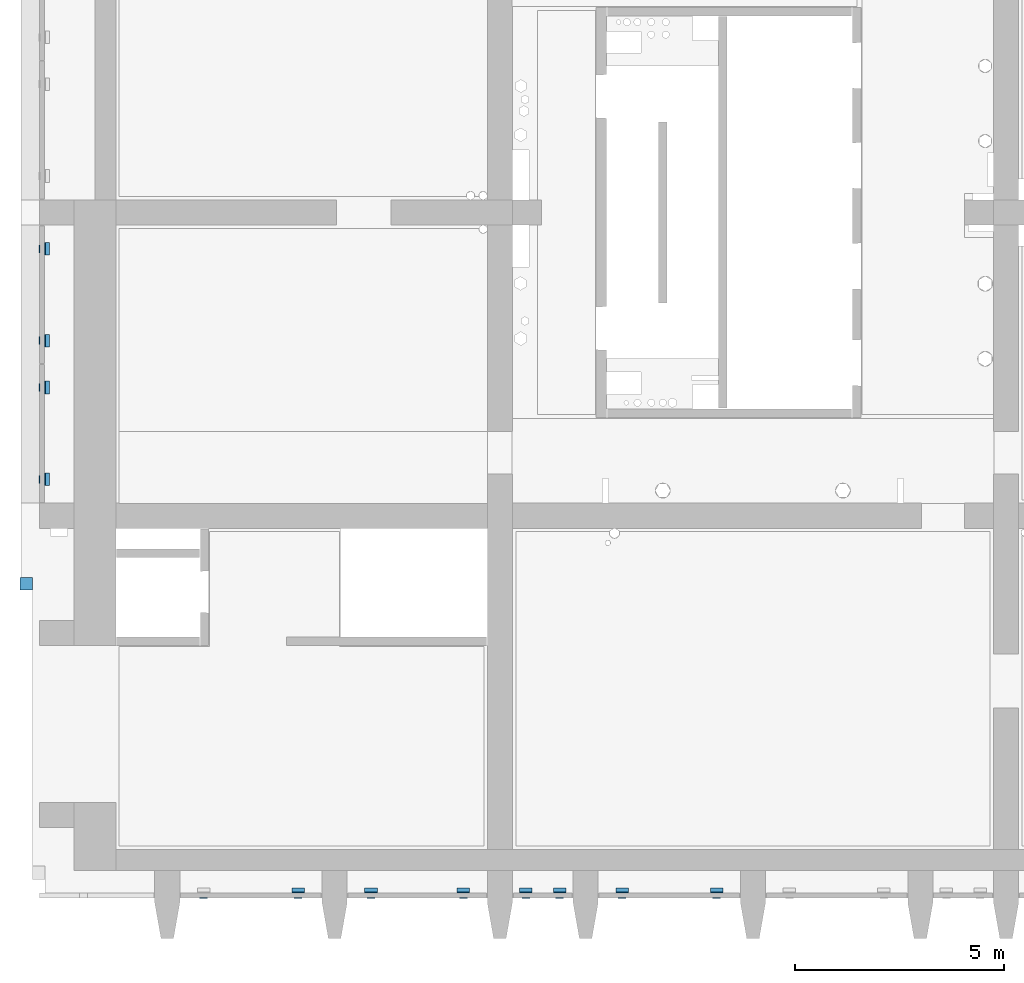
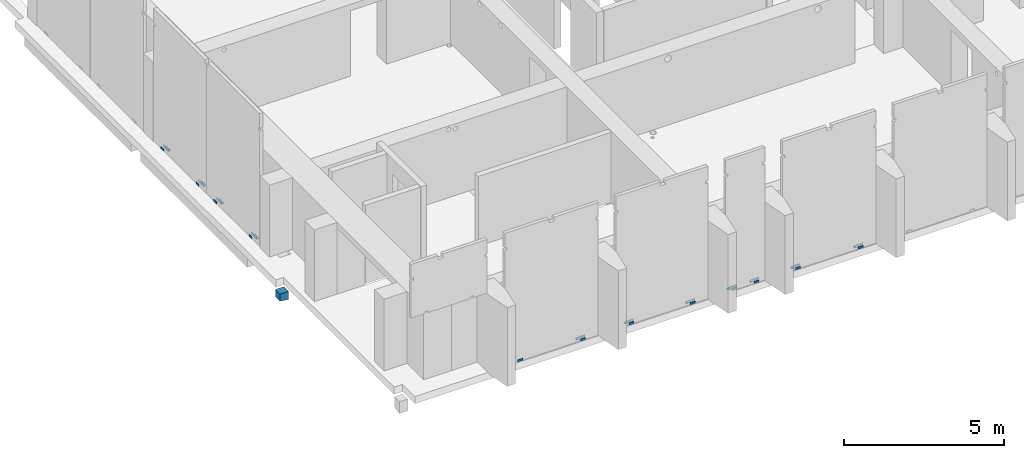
# One storey, part 15 of 31: 24 beams.
"""IFC2X3 building model written with IfcOpenShell, lengths in millimetres."""

from ifc_helpers import new_model, entity, si_unit, converted_unit, derived_unit, direction, frame, frame_2d, origin, origin_2d_with_axis, place, context, subcontext, project, spatial, polyline, circle_curve, parameter, trimmed, segment, composite_curve, rectangle, outline, extrude, source, transform, mapped, material, type_object, type_shapes, element, save


model = new_model("IFC2X3")

# Units and contexts
model_context = context("Model", 3, precision=0.01, world=origin(), true_north=direction((6.12303176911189e-17, 1.0)))
body_context = subcontext(model_context, "Body", "Model", "MODEL_VIEW")
ifc_project = project(units=[si_unit("LENGTHUNIT", "METRE", prefix="MILLI"), si_unit("AREAUNIT", "SQUARE_METRE"), si_unit("VOLUMEUNIT", "CUBIC_METRE"), converted_unit("PLANEANGLEUNIT", "DEGREE", entity("IfcRatioMeasure", 0.0174532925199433), si_unit("PLANEANGLEUNIT", "RADIAN"), dimensions=[0, 0, 0, 0, 0, 0, 0]), si_unit("MASSUNIT", "GRAM", prefix="KILO"), derived_unit("MASSDENSITYUNIT", [(si_unit("MASSUNIT", "GRAM", prefix="KILO"), 1), (si_unit("LENGTHUNIT", "METRE"), -3)]), si_unit("TIMEUNIT", "SECOND"), si_unit("FREQUENCYUNIT", "HERTZ"), si_unit("THERMODYNAMICTEMPERATUREUNIT", "DEGREE_CELSIUS"), derived_unit("THERMALTRANSMITTANCEUNIT", [(si_unit("MASSUNIT", "GRAM", prefix="KILO"), 1), (si_unit("THERMODYNAMICTEMPERATUREUNIT", "KELVIN"), -1), (si_unit("TIMEUNIT", "SECOND"), -3)]), derived_unit("VOLUMETRICFLOWRATEUNIT", [(si_unit("LENGTHUNIT", "METRE"), 3), (si_unit("TIMEUNIT", "SECOND"), -1)]), si_unit("ELECTRICCURRENTUNIT", "AMPERE"), si_unit("ELECTRICVOLTAGEUNIT", "VOLT"), si_unit("POWERUNIT", "WATT"), si_unit("FORCEUNIT", "NEWTON", prefix="KILO"), si_unit("ILLUMINANCEUNIT", "LUX"), si_unit("LUMINOUSFLUXUNIT", "LUMEN"), si_unit("LUMINOUSINTENSITYUNIT", "CANDELA"), derived_unit("USERDEFINED", [(si_unit("MASSUNIT", "GRAM", prefix="KILO"), -1), (si_unit("LENGTHUNIT", "METRE"), -2), (si_unit("TIMEUNIT", "SECOND"), 3), (si_unit("LUMINOUSFLUXUNIT", "LUMEN"), 1)]), derived_unit("LINEARVELOCITYUNIT", [(si_unit("LENGTHUNIT", "METRE"), 1), (si_unit("TIMEUNIT", "SECOND"), -1)]), si_unit("PRESSUREUNIT", "PASCAL"), derived_unit("USERDEFINED", [(si_unit("LENGTHUNIT", "METRE"), -2), (si_unit("MASSUNIT", "GRAM", prefix="KILO"), 1), (si_unit("TIMEUNIT", "SECOND"), -2)])], contexts=[model_context])

# Site, building, storey
site_placement = place(None, origin())
site = spatial("IfcSite", under=ifc_project, at=site_placement, Name="Default", CompositionType="ELEMENT")
building_placement = place(site_placement, origin())
building = spatial("IfcBuilding", under=site, at=building_placement, Name="niet gebruiken", CompositionType="ELEMENT")
storey_placement = place(building_placement, frame((0.0, 0.0, 12000.0)))
storey = spatial("IfcBuildingStorey", under=building, at=storey_placement, Name="03 derde verdieping", CompositionType="ELEMENT", Elevation=12000.0)

# Beams
ifc_material_1 = material(Name="NLRS_f2_beton prefab")
beam_type_1 = type_object("IfcBeamType", Name="NLRS_28.11_SF_WPB_oplegnok prefabbeton_gen:300x310 met afschuining 7,6gr", PredefinedType="BEAM")
beam_1_placement = place(storey_placement, frame((124380.0, 8771.0, -442.0), z_axis=(0.0, 0.0, 1.0), x_axis=(0.0, -1.0, 0.0)))
element("IfcBeam", 1, at=beam_1_placement, inside=storey, type_object=beam_type_1, material=ifc_material_1, Name="NLRS_28.11_SF_WPB_oplegnok prefabbeton_gen:300x310 met afschuining 7,6gr", ObjectType="NLRS_28.11_SF_WPB_oplegnok prefabbeton_gen:300x310 met afschuining 7,6gr", context=body_context, shape_type="SweptSolid", body=[
    extrude(outline(polyline([(-144.992863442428, -150.0), (124.978590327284, -150.0), (165.007136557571, 150.0), (-144.99286344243, 150.0), (-144.992863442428, -150.0)])), frame((0.0, 0.0, -144.99286344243), z_axis=(1.0, 0.0, 0.0), x_axis=(0.0, 0.0, -1.0)), (0.0, 0.0, 1.0), 300.0),
])
ifc_material_2 = material(Name="NLRS_h2_staal")
beam_type_2 = type_object("IfcBeamType", Name="NLRS_28.11_SF_WPB_stalen ligger hoekprofiel gelijkzijdig_gen:ligger gelijzijdig hoekprofiel LEQU_120x120x12_!", PredefinedType="BEAM")
beam_2_placement = place(storey_placement, frame((130730.0, 1254.0, 30.0)))
element("IfcBeam", 2, at=beam_2_placement, inside=storey, type_object=beam_type_2, material=ifc_material_2, Name="NLRS_28.11_SF_WPB_stalen ligger hoekprofiel gelijkzijdig_gen:ligger gelijzijdig hoekprofiel LEQU_120x120x12_!", ObjectType="NLRS_28.11_SF_WPB_stalen ligger hoekprofiel gelijkzijdig_gen:ligger gelijzijdig hoekprofiel LEQU_120x120x12_!", context=body_context, shape_type="SweptSolid", body=[
    extrude(outline(composite_curve([segment(polyline([(-75.5555555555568, -44.444444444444), (44.444444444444, -44.444444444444)]), True, "CONTINUOUS"), segment(polyline([(44.444444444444, -44.4444444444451), (44.4444444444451, 75.5555555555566)]), True, "CONTINUOUS"), segment(polyline([(44.4444444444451, 75.5555555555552), (40.4444444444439, 75.5555555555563)]), True, "CONTINUOUS"), segment(trimmed(circle_curve(frame_2d((40.444444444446, 69.5555555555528), x_axis=(0.0, 1.0)), 6.00000000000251), [parameter(0.0)], [parameter(89.9999999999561)], True, "PARAMETER"), True, "CONTINUOUS"), segment(polyline([(34.444444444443, 69.5555555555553), (34.4444444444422, -22.4444444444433)]), True, "CONTINUOUS"), segment(trimmed(circle_curve(frame_2d((22.4444444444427, -22.4444444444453), x_axis=(1.0, 0.0)), 11.9999999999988), [parameter(269.999999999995)], [parameter(0.0)], True, "PARAMETER"), False, "CONTINUOUS"), segment(polyline([(22.4444444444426, -34.4444444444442), (-69.5555555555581, -34.4444444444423)]), True, "CONTINUOUS"), segment(trimmed(circle_curve(frame_2d((-69.5555555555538, -40.4444444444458), x_axis=(0.0, 1.0)), 6.00000000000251), [parameter(0.0)], [parameter(89.9999999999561)], True, "PARAMETER"), True, "CONTINUOUS"), segment(polyline([(-75.5555555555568, -40.4444444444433), (-75.5555555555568, -44.444444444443)]), True, "CONTINUOUS")], self_intersect=False)), frame((0.0, 24.4444444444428, -75.5555555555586), z_axis=(1.0, 0.0, 0.0), x_axis=(0.0, 0.0, -1.0)), (0.0, 0.0, 1.0), 300.000000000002),
])
for number, where in (
    (3, (132470.0, 1254.0, 30.0)),
    (4, (134680.0, 1254.0, 30.0)),
    (5, (140730.0, 1254.0, 30.0)),
):
    element("IfcBeam", number, at=place(storey_placement, frame(where)), inside=storey, type_object=beam_type_2, material=ifc_material_2, Name="NLRS_28.11_SF_WPB_stalen ligger hoekprofiel gelijkzijdig_gen:ligger gelijzijdig hoekprofiel LEQU_120x120x12_!", ObjectType="NLRS_28.11_SF_WPB_stalen ligger hoekprofiel gelijkzijdig_gen:ligger gelijzijdig hoekprofiel LEQU_120x120x12_!", context=body_context, shape_type="SweptSolid", body=[
        extrude(outline(composite_curve([segment(polyline([(-75.5555555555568, -44.444444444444), (44.444444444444, -44.444444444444)]), True, "CONTINUOUS"), segment(polyline([(44.444444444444, -44.4444444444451), (44.4444444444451, 75.5555555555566)]), True, "CONTINUOUS"), segment(polyline([(44.4444444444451, 75.5555555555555), (40.4444444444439, 75.5555555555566)]), True, "CONTINUOUS"), segment(trimmed(circle_curve(frame_2d((40.444444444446, 69.5555555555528), x_axis=(0.0, 1.0)), 6.00000000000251), [parameter(0.0)], [parameter(89.9999999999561)], True, "PARAMETER"), True, "CONTINUOUS"), segment(polyline([(34.444444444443, 69.5555555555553), (34.4444444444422, -22.4444444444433)]), True, "CONTINUOUS"), segment(trimmed(circle_curve(frame_2d((22.4444444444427, -22.4444444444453), x_axis=(1.0, 0.0)), 11.9999999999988), [parameter(269.999999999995)], [parameter(0.0)], True, "PARAMETER"), False, "CONTINUOUS"), segment(polyline([(22.4444444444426, -34.4444444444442), (-69.5555555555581, -34.4444444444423)]), True, "CONTINUOUS"), segment(trimmed(circle_curve(frame_2d((-69.5555555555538, -40.4444444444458), x_axis=(0.0, 1.0)), 6.00000000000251), [parameter(0.0)], [parameter(89.9999999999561)], True, "PARAMETER"), True, "CONTINUOUS"), segment(polyline([(-75.5555555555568, -40.4444444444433), (-75.5555555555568, -44.444444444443)]), True, "CONTINUOUS")], self_intersect=False)), frame((0.0, 24.4444444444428, -75.5555555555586), z_axis=(1.0, 0.0, 0.0), x_axis=(0.0, 0.0, -1.0)), (0.0, 0.0, 1.0), 300.000000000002),
    ])
beam_3_placement = place(storey_placement, frame((138470.0, 1254.0, 30.0)))
element("IfcBeam", 6, at=beam_3_placement, inside=storey, type_object=beam_type_2, material=ifc_material_2, Name="NLRS_28.11_SF_WPB_stalen ligger hoekprofiel gelijkzijdig_gen:ligger gelijzijdig hoekprofiel LEQU_120x120x12_!", ObjectType="NLRS_28.11_SF_WPB_stalen ligger hoekprofiel gelijkzijdig_gen:ligger gelijzijdig hoekprofiel LEQU_120x120x12_!", context=body_context, shape_type="SweptSolid", body=[
    extrude(outline(composite_curve([segment(polyline([(-75.5555555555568, -44.444444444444), (44.444444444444, -44.444444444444)]), True, "CONTINUOUS"), segment(polyline([(44.444444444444, -44.4444444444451), (44.4444444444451, 75.5555555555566)]), True, "CONTINUOUS"), segment(polyline([(44.4444444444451, 75.5555555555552), (40.4444444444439, 75.5555555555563)]), True, "CONTINUOUS"), segment(trimmed(circle_curve(frame_2d((40.444444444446, 69.5555555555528), x_axis=(0.0, 1.0)), 6.00000000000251), [parameter(0.0)], [parameter(89.9999999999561)], True, "PARAMETER"), True, "CONTINUOUS"), segment(polyline([(34.444444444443, 69.5555555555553), (34.4444444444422, -22.4444444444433)]), True, "CONTINUOUS"), segment(trimmed(circle_curve(frame_2d((22.4444444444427, -22.4444444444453), x_axis=(1.0, 0.0)), 11.9999999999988), [parameter(269.999999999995)], [parameter(0.0)], True, "PARAMETER"), False, "CONTINUOUS"), segment(polyline([(22.4444444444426, -34.4444444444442), (-69.5555555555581, -34.4444444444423)]), True, "CONTINUOUS"), segment(trimmed(circle_curve(frame_2d((-69.5555555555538, -40.4444444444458), x_axis=(0.0, 1.0)), 6.00000000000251), [parameter(0.0)], [parameter(89.9999999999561)], True, "PARAMETER"), True, "CONTINUOUS"), segment(polyline([(-75.5555555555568, -40.4444444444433), (-75.5555555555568, -44.444444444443)]), True, "CONTINUOUS")], self_intersect=False)), frame((0.0, 24.4444444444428, -75.5555555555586), z_axis=(1.0, 0.0, 0.0), x_axis=(0.0, 0.0, -1.0)), (0.0, 0.0, 1.0), 300.000000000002),
])
beam_4_placement = place(storey_placement, frame((136980.0, 1254.0, 30.0)))
element("IfcBeam", 7, at=beam_4_placement, inside=storey, type_object=beam_type_2, material=ifc_material_2, Name="NLRS_28.11_SF_WPB_stalen ligger hoekprofiel gelijkzijdig_gen:ligger gelijzijdig hoekprofiel LEQU_120x120x12_!", ObjectType="NLRS_28.11_SF_WPB_stalen ligger hoekprofiel gelijkzijdig_gen:ligger gelijzijdig hoekprofiel LEQU_120x120x12_!", context=body_context, shape_type="SweptSolid", body=[
    extrude(outline(composite_curve([segment(polyline([(-75.5555555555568, -44.4444444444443), (44.444444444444, -44.4444444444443)]), True, "CONTINUOUS"), segment(polyline([(44.444444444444, -44.4444444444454), (44.4444444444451, 75.5555555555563)]), True, "CONTINUOUS"), segment(polyline([(44.4444444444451, 75.5555555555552), (40.4444444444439, 75.5555555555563)]), True, "CONTINUOUS"), segment(trimmed(circle_curve(frame_2d((40.444444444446, 69.5555555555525), x_axis=(0.0, 1.0)), 6.00000000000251), [parameter(0.0)], [parameter(89.9999999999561)], True, "PARAMETER"), True, "CONTINUOUS"), segment(polyline([(34.444444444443, 69.555555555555), (34.4444444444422, -22.4444444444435)]), True, "CONTINUOUS"), segment(trimmed(circle_curve(frame_2d((22.4444444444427, -22.4444444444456), x_axis=(1.0, 0.0)), 11.9999999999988), [parameter(269.999999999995)], [parameter(0.0)], True, "PARAMETER"), False, "CONTINUOUS"), segment(polyline([(22.4444444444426, -34.4444444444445), (-69.5555555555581, -34.4444444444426)]), True, "CONTINUOUS"), segment(trimmed(circle_curve(frame_2d((-69.5555555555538, -40.4444444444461), x_axis=(0.0, 1.0)), 6.00000000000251), [parameter(0.0)], [parameter(89.9999999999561)], True, "PARAMETER"), True, "CONTINUOUS"), segment(polyline([(-75.5555555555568, -40.4444444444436), (-75.5555555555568, -44.4444444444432)]), True, "CONTINUOUS")], self_intersect=False)), frame((0.0, 24.444444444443, -75.5555555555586), z_axis=(1.0, 0.0, 0.0), x_axis=(0.0, 0.0, -1.0)), (0.0, 0.0, 1.0), 300.000000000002),
])
beam_5_placement = place(storey_placement, frame((136170.0, 1254.0, 30.0)))
element("IfcBeam", 8, at=beam_5_placement, inside=storey, type_object=beam_type_2, material=ifc_material_2, Name="NLRS_28.11_SF_WPB_stalen ligger hoekprofiel gelijkzijdig_gen:ligger gelijzijdig hoekprofiel LEQU_120x120x12_!", ObjectType="NLRS_28.11_SF_WPB_stalen ligger hoekprofiel gelijkzijdig_gen:ligger gelijzijdig hoekprofiel LEQU_120x120x12_!", context=body_context, shape_type="SweptSolid", body=[
    extrude(outline(composite_curve([segment(polyline([(-75.5555555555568, -44.444444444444), (44.444444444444, -44.444444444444)]), True, "CONTINUOUS"), segment(polyline([(44.444444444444, -44.4444444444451), (44.4444444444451, 75.5555555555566)]), True, "CONTINUOUS"), segment(polyline([(44.4444444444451, 75.5555555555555), (40.4444444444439, 75.5555555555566)]), True, "CONTINUOUS"), segment(trimmed(circle_curve(frame_2d((40.444444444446, 69.5555555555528), x_axis=(0.0, 1.0)), 6.00000000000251), [parameter(0.0)], [parameter(89.9999999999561)], True, "PARAMETER"), True, "CONTINUOUS"), segment(polyline([(34.444444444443, 69.5555555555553), (34.4444444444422, -22.4444444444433)]), True, "CONTINUOUS"), segment(trimmed(circle_curve(frame_2d((22.4444444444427, -22.4444444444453), x_axis=(1.0, 0.0)), 11.9999999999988), [parameter(269.999999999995)], [parameter(0.0)], True, "PARAMETER"), False, "CONTINUOUS"), segment(polyline([(22.4444444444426, -34.4444444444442), (-69.5555555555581, -34.4444444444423)]), True, "CONTINUOUS"), segment(trimmed(circle_curve(frame_2d((-69.5555555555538, -40.4444444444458), x_axis=(0.0, 1.0)), 6.00000000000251), [parameter(0.0)], [parameter(89.9999999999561)], True, "PARAMETER"), True, "CONTINUOUS"), segment(polyline([(-75.5555555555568, -40.4444444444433), (-75.5555555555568, -44.444444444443)]), True, "CONTINUOUS")], self_intersect=False)), frame((0.0, 24.4444444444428, -75.5555555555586), z_axis=(1.0, 0.0, 0.0), x_axis=(0.0, 0.0, -1.0)), (0.0, 0.0, 1.0), 300.000000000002),
])
beam_6_placement = place(storey_placement, frame((124840.0, 11270.0, 30.0), z_axis=(0.0, 0.0, 1.0), x_axis=(0.0, -1.0, 0.0)))
element("IfcBeam", 9, at=beam_6_placement, inside=storey, type_object=beam_type_2, material=ifc_material_2, Name="NLRS_28.11_SF_WPB_stalen ligger hoekprofiel gelijkzijdig_gen:ligger gelijzijdig hoekprofiel LEQU_120x120x12_!", ObjectType="NLRS_28.11_SF_WPB_stalen ligger hoekprofiel gelijkzijdig_gen:ligger gelijzijdig hoekprofiel LEQU_120x120x12_!", context=body_context, shape_type="SweptSolid", body=[
    extrude(outline(composite_curve([segment(polyline([(-75.5555555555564, -44.4444444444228), (44.4444444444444, -44.4444444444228)]), True, "CONTINUOUS"), segment(polyline([(44.4444444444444, -44.4444444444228), (44.4444444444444, 75.5555555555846)]), True, "CONTINUOUS"), segment(polyline([(44.4444444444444, 75.5555555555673), (40.4444444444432, 75.5555555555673)]), True, "CONTINUOUS"), segment(trimmed(circle_curve(frame_2d((40.4444444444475, 69.5555555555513), x_axis=(0.0, 1.0)), 6.00000000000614), [parameter(0.0)], [parameter(89.9999999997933)], True, "PARAMETER"), True, "CONTINUOUS"), segment(polyline([(34.4444444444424, 69.5555555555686), (34.4444444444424, -22.4444444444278)]), True, "CONTINUOUS"), segment(trimmed(circle_curve(frame_2d((22.4444444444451, -22.4444444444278), x_axis=(1.0, 0.0)), 11.9999999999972), [parameter(269.99999999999)], [parameter(0.0)], True, "PARAMETER"), False, "CONTINUOUS"), segment(polyline([(22.444444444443, -34.4444444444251), (-69.5555555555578, -34.4444444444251)]), True, "CONTINUOUS"), segment(trimmed(circle_curve(frame_2d((-69.5555555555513, -40.444444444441), x_axis=(0.0, 1.0)), 6.00000000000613), [parameter(0.0)], [parameter(89.9999999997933)], True, "PARAMETER"), True, "CONTINUOUS"), segment(polyline([(-75.5555555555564, -40.4444444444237), (-75.5555555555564, -44.4444444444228)]), True, "CONTINUOUS")], self_intersect=False)), frame((0.0, 24.4444444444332, -75.5555555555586), z_axis=(1.0, 0.0, 0.0), x_axis=(0.0, 0.0, -1.0)), (0.0, 0.0, 1.0), 300.000000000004),
])
beam_7_placement = place(storey_placement, frame((124840.0, 13465.0, 30.0), z_axis=(0.0, 0.0, 1.0), x_axis=(0.0, -1.0, 0.0)))
element("IfcBeam", 10, at=beam_7_placement, inside=storey, type_object=beam_type_2, material=ifc_material_2, Name="NLRS_28.11_SF_WPB_stalen ligger hoekprofiel gelijkzijdig_gen:ligger gelijzijdig hoekprofiel LEQU_120x120x12_!", ObjectType="NLRS_28.11_SF_WPB_stalen ligger hoekprofiel gelijkzijdig_gen:ligger gelijzijdig hoekprofiel LEQU_120x120x12_!", context=body_context, shape_type="SweptSolid", body=[
    extrude(outline(composite_curve([segment(polyline([(-75.5555555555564, -44.4444444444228), (44.4444444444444, -44.4444444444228)]), True, "CONTINUOUS"), segment(polyline([(44.4444444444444, -44.4444444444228), (44.4444444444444, 75.5555555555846)]), True, "CONTINUOUS"), segment(polyline([(44.4444444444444, 75.5555555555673), (40.4444444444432, 75.5555555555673)]), True, "CONTINUOUS"), segment(trimmed(circle_curve(frame_2d((40.4444444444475, 69.5555555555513), x_axis=(0.0, 1.0)), 6.00000000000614), [parameter(0.0)], [parameter(89.9999999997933)], True, "PARAMETER"), True, "CONTINUOUS"), segment(polyline([(34.4444444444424, 69.5555555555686), (34.4444444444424, -22.4444444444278)]), True, "CONTINUOUS"), segment(trimmed(circle_curve(frame_2d((22.4444444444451, -22.4444444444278), x_axis=(1.0, 0.0)), 11.9999999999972), [parameter(269.99999999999)], [parameter(0.0)], True, "PARAMETER"), False, "CONTINUOUS"), segment(polyline([(22.444444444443, -34.4444444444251), (-69.5555555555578, -34.4444444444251)]), True, "CONTINUOUS"), segment(trimmed(circle_curve(frame_2d((-69.5555555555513, -40.444444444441), x_axis=(0.0, 1.0)), 6.00000000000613), [parameter(0.0)], [parameter(89.9999999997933)], True, "PARAMETER"), True, "CONTINUOUS"), segment(polyline([(-75.5555555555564, -40.4444444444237), (-75.5555555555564, -44.4444444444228)]), True, "CONTINUOUS")], self_intersect=False)), frame((0.0, 24.4444444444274, -75.5555555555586), z_axis=(1.0, 0.0, 0.0), x_axis=(0.0, 0.0, -1.0)), (0.0, 0.0, 1.0), 300.000000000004),
])
beam_8_placement = place(storey_placement, frame((124840.0, 14585.0, 30.0), z_axis=(0.0, 0.0, 1.0), x_axis=(0.0, -1.0, 0.0)))
element("IfcBeam", 11, at=beam_8_placement, inside=storey, type_object=beam_type_2, material=ifc_material_2, Name="NLRS_28.11_SF_WPB_stalen ligger hoekprofiel gelijkzijdig_gen:ligger gelijzijdig hoekprofiel LEQU_120x120x12_!", ObjectType="NLRS_28.11_SF_WPB_stalen ligger hoekprofiel gelijkzijdig_gen:ligger gelijzijdig hoekprofiel LEQU_120x120x12_!", context=body_context, shape_type="SweptSolid", body=[
    extrude(outline(composite_curve([segment(polyline([(-75.5555555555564, -44.4444444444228), (44.4444444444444, -44.4444444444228)]), True, "CONTINUOUS"), segment(polyline([(44.4444444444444, -44.4444444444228), (44.4444444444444, 75.5555555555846)]), True, "CONTINUOUS"), segment(polyline([(44.4444444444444, 75.5555555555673), (40.4444444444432, 75.5555555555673)]), True, "CONTINUOUS"), segment(trimmed(circle_curve(frame_2d((40.4444444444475, 69.5555555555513), x_axis=(0.0, 1.0)), 6.00000000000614), [parameter(0.0)], [parameter(89.9999999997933)], True, "PARAMETER"), True, "CONTINUOUS"), segment(polyline([(34.4444444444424, 69.5555555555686), (34.4444444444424, -22.4444444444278)]), True, "CONTINUOUS"), segment(trimmed(circle_curve(frame_2d((22.4444444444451, -22.4444444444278), x_axis=(1.0, 0.0)), 11.9999999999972), [parameter(269.99999999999)], [parameter(0.0)], True, "PARAMETER"), False, "CONTINUOUS"), segment(polyline([(22.444444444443, -34.4444444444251), (-69.5555555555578, -34.4444444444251)]), True, "CONTINUOUS"), segment(trimmed(circle_curve(frame_2d((-69.5555555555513, -40.444444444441), x_axis=(0.0, 1.0)), 6.00000000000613), [parameter(0.0)], [parameter(89.9999999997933)], True, "PARAMETER"), True, "CONTINUOUS"), segment(polyline([(-75.5555555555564, -40.4444444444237), (-75.5555555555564, -44.4444444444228)]), True, "CONTINUOUS")], self_intersect=False)), frame((0.0, 24.4444444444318, -75.5555555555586), z_axis=(1.0, 0.0, 0.0), x_axis=(0.0, 0.0, -1.0)), (0.0, 0.0, 1.0), 300.000000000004),
])
beam_9_placement = place(storey_placement, frame((124840.0, 16780.0, 30.0), z_axis=(0.0, 0.0, 1.0), x_axis=(0.0, -1.0, 0.0)))
element("IfcBeam", 12, at=beam_9_placement, inside=storey, type_object=beam_type_2, material=ifc_material_2, Name="NLRS_28.11_SF_WPB_stalen ligger hoekprofiel gelijkzijdig_gen:ligger gelijzijdig hoekprofiel LEQU_120x120x12_!", ObjectType="NLRS_28.11_SF_WPB_stalen ligger hoekprofiel gelijkzijdig_gen:ligger gelijzijdig hoekprofiel LEQU_120x120x12_!", context=body_context, shape_type="SweptSolid", body=[
    extrude(outline(composite_curve([segment(polyline([(-75.5555555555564, -44.4444444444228), (44.4444444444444, -44.4444444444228)]), True, "CONTINUOUS"), segment(polyline([(44.4444444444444, -44.4444444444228), (44.4444444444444, 75.5555555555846)]), True, "CONTINUOUS"), segment(polyline([(44.4444444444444, 75.5555555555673), (40.4444444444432, 75.5555555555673)]), True, "CONTINUOUS"), segment(trimmed(circle_curve(frame_2d((40.4444444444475, 69.5555555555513), x_axis=(0.0, 1.0)), 6.00000000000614), [parameter(0.0)], [parameter(89.9999999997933)], True, "PARAMETER"), True, "CONTINUOUS"), segment(polyline([(34.4444444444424, 69.5555555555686), (34.4444444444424, -22.4444444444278)]), True, "CONTINUOUS"), segment(trimmed(circle_curve(frame_2d((22.4444444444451, -22.4444444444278), x_axis=(1.0, 0.0)), 11.9999999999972), [parameter(269.99999999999)], [parameter(0.0)], True, "PARAMETER"), False, "CONTINUOUS"), segment(polyline([(22.444444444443, -34.4444444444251), (-69.5555555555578, -34.4444444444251)]), True, "CONTINUOUS"), segment(trimmed(circle_curve(frame_2d((-69.5555555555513, -40.444444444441), x_axis=(0.0, 1.0)), 6.00000000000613), [parameter(0.0)], [parameter(89.9999999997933)], True, "PARAMETER"), True, "CONTINUOUS"), segment(polyline([(-75.5555555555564, -40.4444444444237), (-75.5555555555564, -44.4444444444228)]), True, "CONTINUOUS")], self_intersect=False)), frame((0.0, 24.444444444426, -75.5555555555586), z_axis=(1.0, 0.0, 0.0), x_axis=(0.0, 0.0, -1.0)), (0.0, 0.0, 1.0), 300.000000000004),
])
beam_type_3 = type_object("IfcBeamType", Name="ligger stripstaal RECT_80x12 gedraaid_!", PredefinedType="BEAM", material=ifc_material_2)
shared_shape = source(origin(), body_context, "Body", "SweptSolid", [
    extrude(rectangle(XDim=179.99999999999, YDim=12.0, at=origin_2d_with_axis()), frame((0.0, 0.0, -40.0), z_axis=(0.0, 0.0, 1.0), x_axis=(-1.0, 0.0, 0.0)), (0.0, 0.0, 1.0), 80.0),
    extrude(rectangle(XDim=179.99999999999, YDim=12.0, at=origin_2d_with_axis()), frame((0.0, 0.0, -40.0), z_axis=(0.0, 0.0, 1.0), x_axis=(-1.0, 0.0, 0.0)), (0.0, 0.0, 1.0), 80.0),
])
type_shapes(beam_type_3, [shared_shape])
for number, where, z_axis, x_axis in (
    (13, (130880.0, 1108.0, -20.0), (0.0, 0.0, 1.0), (-1.0, 0.0, 0.0)),
    (14, (128620.0, 1108.0, -20.0), (0.0, 0.0, 1.0), (-1.0, 0.0, 0.0)),
    (15, (132620.0, 1108.0, -20.0), (0.0, 0.0, 1.0), (-1.0, 0.0, 0.0)),
    (16, (134830.0, 1108.0, -20.0), (0.0, 0.0, 1.0), (-1.0, 0.0, 0.0)),
    (17, (140880.0, 1108.0, -20.0), (0.0, 0.0, 1.0), (-1.0, 0.0, 0.0)),
    (18, (138620.0, 1108.0, -20.0), (0.0, 0.0, 1.0), (-1.0, 0.0, 0.0)),
    (19, (137130.0, 1108.0, -20.0), (0.0, 0.0, 1.0), (-1.0, 0.0, 0.0)),
    (20, (136320.0, 1108.0, -20.0), (0.0, 0.0, 1.0), (-1.0, 0.0, 0.0)),
    (21, (124694.0, 11120.0, -20.0), (0.0, 0.0, 1.0), (0.0, 1.0, 0.0)),
    (22, (124694.0, 13315.0, -20.0), (0.0, 0.0, 1.0), (0.0, 1.0, 0.0)),
    (23, (124694.0, 14435.0, -20.0), (0.0, 0.0, 1.0), (0.0, 1.0, 0.0)),
    (24, (124694.0, 16630.0, -20.0), (0.0, 0.0, 1.0), (0.0, 1.0, 0.0)),
):
    element("IfcBeam", number, at=place(storey_placement, frame(where, z_axis=z_axis, x_axis=x_axis)), inside=storey, type_object=beam_type_3, material=ifc_material_2, Name="NLRS_28.11_SF_WPB_stalen ligger stripstaal_gen:ligger stripstaal RECT_80x12 gedraaid_!", ObjectType="ligger stripstaal RECT_80x12 gedraaid_!", context=body_context, shape_type="MappedRepresentation", body=[
        mapped(shared_shape, transform((0.0, 0.0, 0.0), scale=1.0)),
    ])

save(model, "model.ifc")
